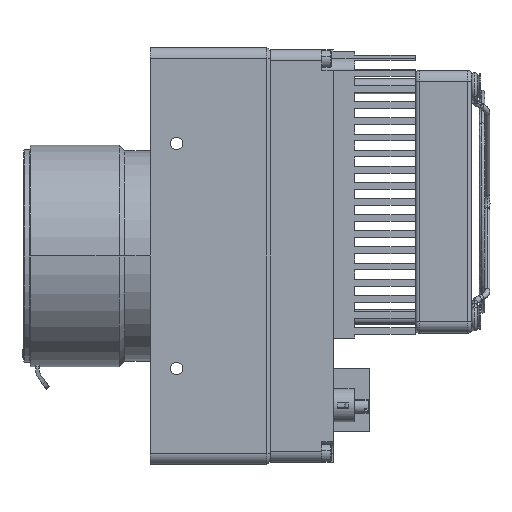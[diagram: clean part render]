
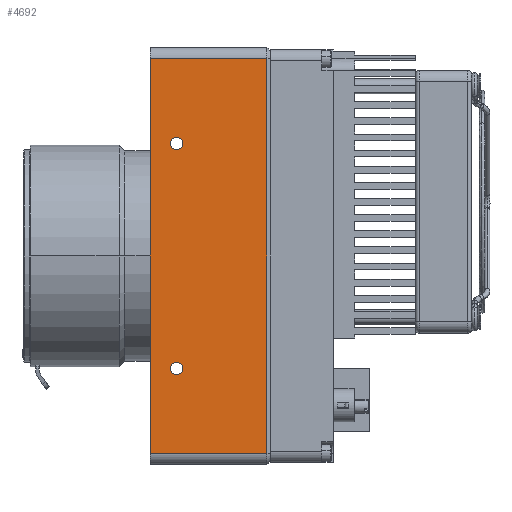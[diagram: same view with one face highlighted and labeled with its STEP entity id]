
A CAD part, left-side view. The second image highlights one B-rep face of the part: STEP entity #4692.
In plain terms, the highlighted planar face has unit normal (-1, 0, 0).
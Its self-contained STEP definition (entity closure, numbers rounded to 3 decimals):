
#614 = PLANE ( 'NONE',  #6015 ) ;
#653 = VERTEX_POINT ( 'NONE', #29120 ) ;
#759 = EDGE_LOOP ( 'NONE', ( #7071, #28045 ) ) ;
#1317 = DIRECTION ( 'NONE',  ( -1., 0., 0. ) ) ;
#1729 = FACE_OUTER_BOUND ( 'NONE', #29979, .T. ) ;
#1896 = CARTESIAN_POINT ( 'NONE',  ( -66.24, 26.404, 22.307 ) ) ;
#2664 = DIRECTION ( 'NONE',  ( 0., 0., 1. ) ) ;
#2765 = VECTOR ( 'NONE', #32225, 1000. ) ;
#3637 = CARTESIAN_POINT ( 'NONE',  ( -66.24, -3.426, -60.193 ) ) ;
#4206 = CARTESIAN_POINT ( 'NONE',  ( -66.24, 0.704, 44.807 ) ) ;
#4343 = DIRECTION ( 'NONE',  ( 0., 1., 0. ) ) ;
#4692 = ADVANCED_FACE ( 'NONE', ( #10438, #24347, #1729 ), #614, .F. ) ;
#5138 = AXIS2_PLACEMENT_3D ( 'NONE', #10086, #32564, #35363 ) ;
#6015 = AXIS2_PLACEMENT_3D ( 'NONE', #34530, #26167, #34179 ) ;
#6128 = CARTESIAN_POINT ( 'NONE',  ( -66.24, 24.754, 22.307 ) ) ;
#6589 = CIRCLE ( 'NONE', #18748, 1.65 ) ;
#6957 = VERTEX_POINT ( 'NONE', #9781 ) ;
#7071 = ORIENTED_EDGE ( 'NONE', *, *, #8167, .F. ) ;
#7236 = CIRCLE ( 'NONE', #18562, 1.65 ) ;
#7310 = ORIENTED_EDGE ( 'NONE', *, *, #28476, .F. ) ;
#8026 = CIRCLE ( 'NONE', #33250, 1.65 ) ;
#8167 = EDGE_CURVE ( 'NONE', #17362, #26203, #8026, .T. ) ;
#9749 = DIRECTION ( 'NONE',  ( 0., -1., 0. ) ) ;
#9781 = CARTESIAN_POINT ( 'NONE',  ( -66.24, 26.404, -37.693 ) ) ;
#9872 = CARTESIAN_POINT ( 'NONE',  ( -66.24, 31.754, 47.807 ) ) ;
#10086 = CARTESIAN_POINT ( 'NONE',  ( -66.24, 24.754, -37.693 ) ) ;
#10434 = ORIENTED_EDGE ( 'NONE', *, *, #15166, .T. ) ;
#10438 = FACE_BOUND ( 'NONE', #20096, .T. ) ;
#11389 = VECTOR ( 'NONE', #35333, 1000. ) ;
#11995 = VECTOR ( 'NONE', #2664, 1000. ) ;
#12775 = LINE ( 'NONE', #9872, #2765 ) ;
#14196 = CARTESIAN_POINT ( 'NONE',  ( -66.24, 23.104, -37.693 ) ) ;
#15166 = EDGE_CURVE ( 'NONE', #18642, #23938, #29901, .T. ) ;
#15230 = LINE ( 'NONE', #20966, #11389 ) ;
#15267 = CARTESIAN_POINT ( 'NONE',  ( -66.24, 24.754, 22.307 ) ) ;
#15816 = ORIENTED_EDGE ( 'NONE', *, *, #35312, .T. ) ;
#16966 = VERTEX_POINT ( 'NONE', #19670 ) ;
#17362 = VERTEX_POINT ( 'NONE', #1896 ) ;
#17548 = DIRECTION ( 'NONE',  ( 0., 1., 0. ) ) ;
#18182 = DIRECTION ( 'NONE',  ( 0., 1., 0. ) ) ;
#18562 = AXIS2_PLACEMENT_3D ( 'NONE', #6128, #22908, #17548 ) ;
#18642 = VERTEX_POINT ( 'NONE', #31626 ) ;
#18748 = AXIS2_PLACEMENT_3D ( 'NONE', #26356, #29336, #18182 ) ;
#19600 = LINE ( 'NONE', #3637, #20020 ) ;
#19670 = CARTESIAN_POINT ( 'NONE',  ( -66.24, 31.754, 44.807 ) ) ;
#20020 = VECTOR ( 'NONE', #9749, 1000. ) ;
#20096 = EDGE_LOOP ( 'NONE', ( #32292, #7310 ) ) ;
#20945 = EDGE_CURVE ( 'NONE', #26203, #17362, #7236, .T. ) ;
#20966 = CARTESIAN_POINT ( 'NONE',  ( -66.24, -3.426, 44.807 ) ) ;
#22231 = CARTESIAN_POINT ( 'NONE',  ( -66.24, 0.704, 44.807 ) ) ;
#22580 = CARTESIAN_POINT ( 'NONE',  ( -66.24, 23.104, 22.307 ) ) ;
#22908 = DIRECTION ( 'NONE',  ( -1., 0., 0. ) ) ;
#23938 = VERTEX_POINT ( 'NONE', #4206 ) ;
#24347 = FACE_BOUND ( 'NONE', #759, .T. ) ;
#25240 = ORIENTED_EDGE ( 'NONE', *, *, #27290, .T. ) ;
#26167 = DIRECTION ( 'NONE',  ( 1., 0., 0. ) ) ;
#26203 = VERTEX_POINT ( 'NONE', #22580 ) ;
#26356 = CARTESIAN_POINT ( 'NONE',  ( -66.24, 24.754, -37.693 ) ) ;
#26863 = ORIENTED_EDGE ( 'NONE', *, *, #32498, .T. ) ;
#27290 = EDGE_CURVE ( 'NONE', #653, #18642, #19600, .T. ) ;
#28045 = ORIENTED_EDGE ( 'NONE', *, *, #20945, .F. ) ;
#28476 = EDGE_CURVE ( 'NONE', #36075, #6957, #34420, .T. ) ;
#29120 = CARTESIAN_POINT ( 'NONE',  ( -66.24, 31.754, -60.193 ) ) ;
#29336 = DIRECTION ( 'NONE',  ( -1., 0., 0. ) ) ;
#29901 = LINE ( 'NONE', #22231, #11995 ) ;
#29979 = EDGE_LOOP ( 'NONE', ( #25240, #10434, #15816, #26863 ) ) ;
#31626 = CARTESIAN_POINT ( 'NONE',  ( -66.24, 0.704, -60.193 ) ) ;
#32225 = DIRECTION ( 'NONE',  ( 0., 0., -1. ) ) ;
#32292 = ORIENTED_EDGE ( 'NONE', *, *, #32968, .F. ) ;
#32498 = EDGE_CURVE ( 'NONE', #16966, #653, #12775, .T. ) ;
#32564 = DIRECTION ( 'NONE',  ( -1., 0., 0. ) ) ;
#32968 = EDGE_CURVE ( 'NONE', #6957, #36075, #6589, .T. ) ;
#33250 = AXIS2_PLACEMENT_3D ( 'NONE', #15267, #1317, #4343 ) ;
#34179 = DIRECTION ( 'NONE',  ( 0., -1., 0. ) ) ;
#34420 = CIRCLE ( 'NONE', #5138, 1.65 ) ;
#34530 = CARTESIAN_POINT ( 'NONE',  ( -66.24, -3.426, 47.807 ) ) ;
#35312 = EDGE_CURVE ( 'NONE', #23938, #16966, #15230, .T. ) ;
#35333 = DIRECTION ( 'NONE',  ( 0., 1., 0. ) ) ;
#35363 = DIRECTION ( 'NONE',  ( 0., 1., 0. ) ) ;
#36075 = VERTEX_POINT ( 'NONE', #14196 ) ;
